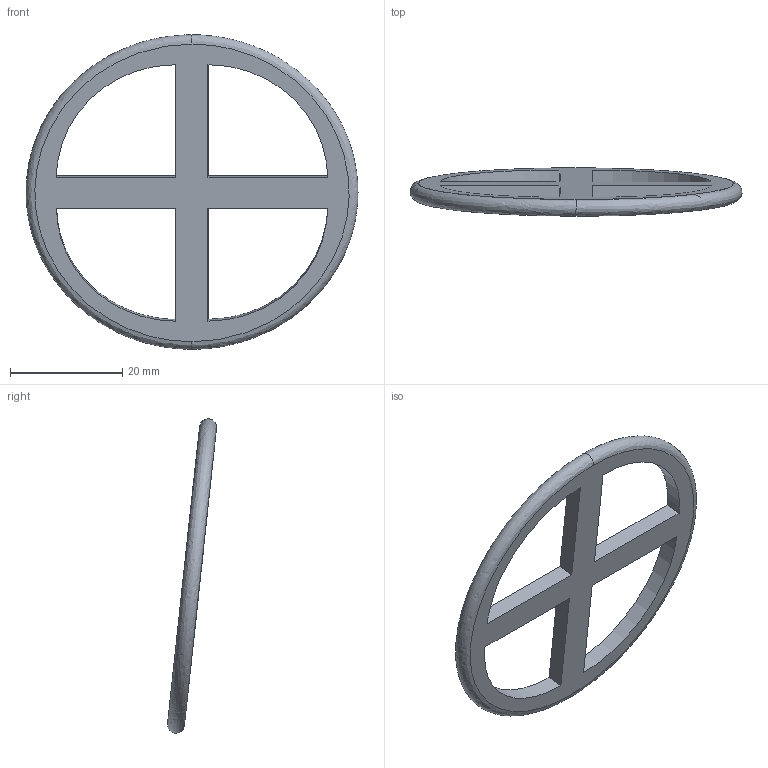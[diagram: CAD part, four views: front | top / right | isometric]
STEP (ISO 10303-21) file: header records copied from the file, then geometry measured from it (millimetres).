
FILE_DESCRIPTION(/* description */ (''),/* implementation_level */ '2;1');
FILE_NAME(/* name */ 'M-NARR~2',/* time_stamp */ '2020-04-10T21:33:41+03:00',/* author */ (''),/* organization */ (''),/* preprocessor_version */ 'ST-DEVELOPER v16.5',/* originating_system */ '',/* authorisation */ '');
FILE_SCHEMA (('AUTOMOTIVE_DESIGN'));
Length unit declared in the file: millimetre
Products named in the file (1): Document
Bounding box: 59.15 x 8.72 x 56.03 mm (x, y, z)
Volume: 3612.2 mm3; surface area: 3721.9 mm2
Topology: 1 solids, 1 shells, 18 faces, 46 edges, 30 vertices
Faces by surface type: plane 10, bspline 8
Entity records: 1332 total; most frequent: CARTESIAN_POINT 1006, ORIENTED_EDGE 92, EDGE_CURVE 46, VERTEX_POINT 30, EDGE_LOOP 26, B_SPLINE_CURVE_WITH_KNOTS 24, ADVANCED_FACE 18, FACE_OUTER_BOUND 18
